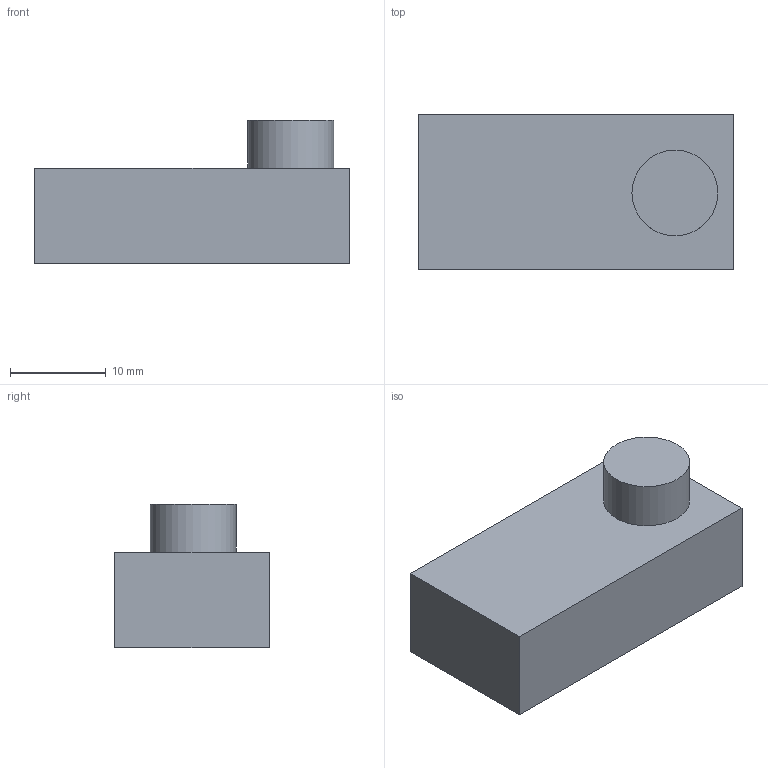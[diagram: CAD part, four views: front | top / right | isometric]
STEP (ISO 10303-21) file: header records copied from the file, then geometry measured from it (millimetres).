
FILE_DESCRIPTION(('FreeCAD Model'),'2;1');
FILE_NAME('Open CASCADE Shape Model','2025-09-29T18:34:11',(''),(''), 'Open CASCADE STEP processor 7.8','FreeCAD','Unknown');
FILE_SCHEMA(('AUTOMOTIVE_DESIGN { 1 0 10303 214 1 1 1 1 }'));
Length unit declared in the file: millimetre
Products named in the file (1): Body
Bounding box: 32.91 x 16.17 x 15 mm (x, y, z)
Volume: 5636.2 mm3; surface area: 2186.5 mm2
Topology: 1 solids, 1 shells, 8 faces, 15 edges, 10 vertices
Faces by surface type: plane 7, cylinder 1
Full cylindrical faces by diameter (mm): 8.968 x1
Entity records: 418 total; most frequent: DIRECTION 65, CARTESIAN_POINT 64, LINE 41, VECTOR 41, ORIENTED_EDGE 30, PCURVE 30, DEFINITIONAL_REPRESENTATION 30, EDGE_CURVE 15
